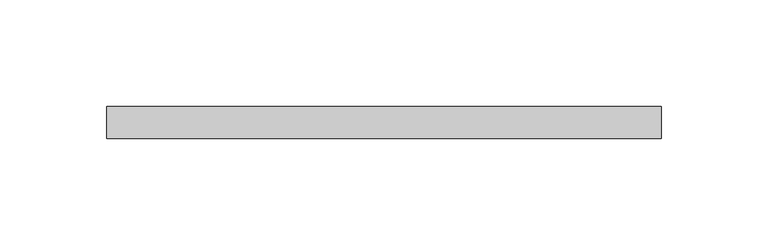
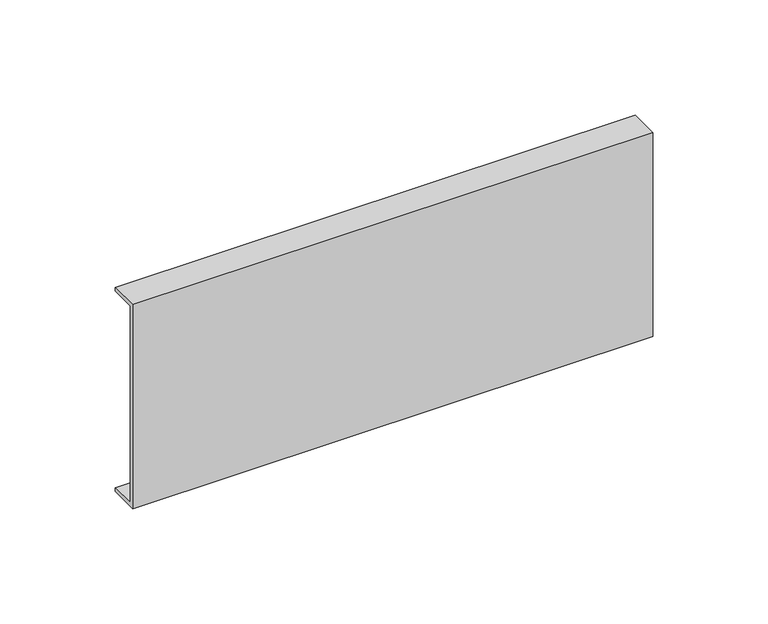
"""IFC4 building model written with IfcOpenShell, lengths in millimetres: cable carrier fitting geometry, BAKS_LDLS_CONN_Straight connector_LSSU : LSSUC_H100."""

from ifc_helpers import new_model, si_unit, frame, origin, place, context, project, spatial, polyline, outline, extrude, source, transform, mapped, element, save


def cable_carrier_fitting_737cec81(model_context):
    return source(origin(), model_context, "Body", "SweptSolid", [
        extrude(outline(polyline([(-2.0, 54.0), (13.0, 54.0), (13.0, 52.0), (0.0, 52.0), (0.0, -52.0), (13.0, -52.0), (13.0, -54.0), (-2.0, -54.0), (-2.0, 54.0)])), frame((-130.0, 0.0, 0.0), z_axis=(1.0, 0.0, 0.0), x_axis=(0.0, 1.0, 0.0)), (0.0, 0.0, 1.0), 260.0),
    ])


if __name__ == "__main__":
    model = new_model("IFC4")
    model_context = context("Model", 3, world=origin())
    ifc_project = project(units=[si_unit("LENGTHUNIT", "METRE", prefix="MILLI")], contexts=[model_context])
    site = spatial("IfcSite", under=ifc_project)
    building = spatial("IfcBuilding", under=site)
    placement = place(None, origin())
    cable_carrier_fitting_shape = cable_carrier_fitting_737cec81(model_context)
    element("IfcCableCarrierFitting", 1, ObjectType="BAKS_LDLS_CONN_Straight connector_LSSU : LSSUC_H100", at=placement, inside=building, context=model_context, shape_type="MappedRepresentation", body=[
        mapped(cable_carrier_fitting_shape, transform((0.0, 0.0, 0.0), x_axis=(1.0, 0.0, 0.0), y_axis=(0.0, 1.0, 0.0), z_axis=(0.0, 0.0, 1.0))),
    ])
    save(model, "model.ifc")
